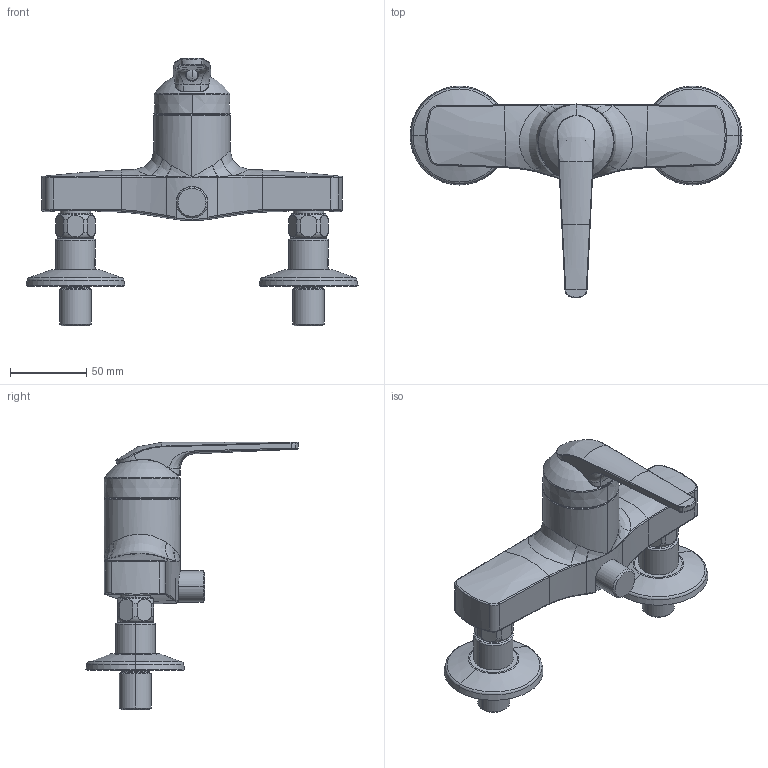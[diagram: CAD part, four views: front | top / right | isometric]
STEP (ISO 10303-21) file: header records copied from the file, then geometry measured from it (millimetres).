
FILE_DESCRIPTION((''),'2;1');
FILE_NAME('21062310','2012-11-26T',('laf'),(''),'PRO/ENGINEER BY PARAMETRIC TECHNOLOGY CORPORATION, 2011080','PRO/ENGINEER BY PARAMETRIC TECHNOLOGY CORPORATION, 2011080','');
FILE_SCHEMA(('AUTOMOTIVE_DESIGN_CC2 { 1 2 10303 214 -1 1 5 2 }'));
Length unit declared in the file: millimetre
Products named in the file (1): 21062310
Bounding box: 218 x 139.44 x 175.7 mm (x, y, z)
Volume: 422572 mm3; surface area: 88390.6 mm2
Topology: 3 solids, 5 shells, 728 faces, 1691 edges, 1001 vertices
Faces by surface type: bspline 181, cylinder 161, plane 137, torus 126, cone 98, sphere 25
Entity records: 39926 total; most frequent: CARTESIAN_POINT 17077, ORIENTED_EDGE 3362, DIRECTION 3127, EDGE_CURVE 1681, AXIS2_PLACEMENT_3D 1372, FILL_AREA_STYLE_COLOUR 1191, FILL_AREA_STYLE 1191, SURFACE_STYLE_FILL_AREA 1191
